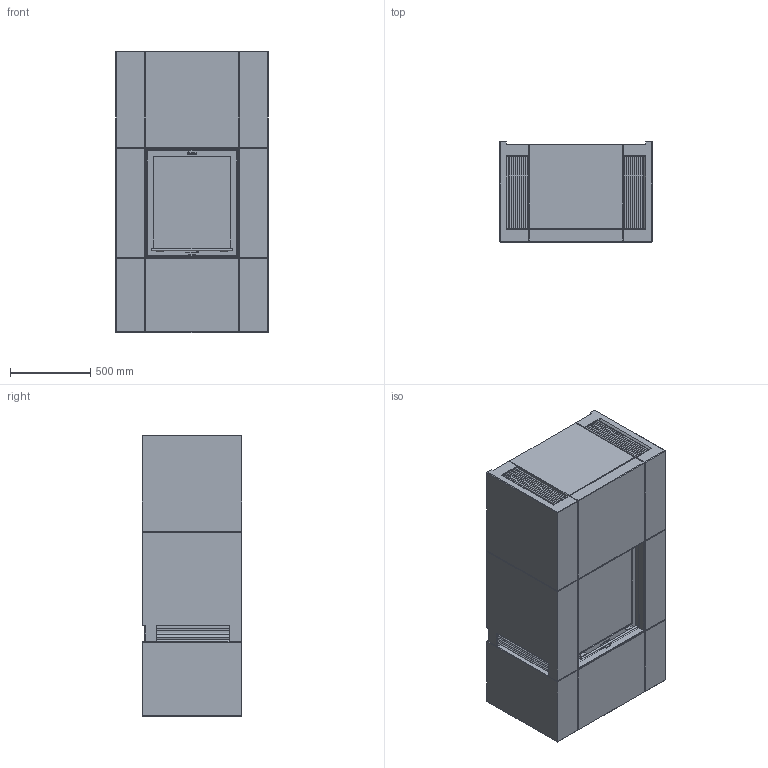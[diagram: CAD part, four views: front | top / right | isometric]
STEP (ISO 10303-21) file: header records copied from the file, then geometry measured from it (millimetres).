
FILE_DESCRIPTION( ( 'Unknown' ), '1' );
FILE_NAME( 'C:/Documents and Settings/hapierrea/Application Data/Unigraphics Solutions/Solid Edge/Insight/insight/Insight/interior models/C21C Assembly.stp', '2010', ( 'Unknown' ), ( 'NIBE AB' ), 'PSStep 11.0', 'Solid Edge', ' ' );
FILE_SCHEMA( ( 'AUTOMOTIVE_DESIGN { 1 0 10303 214 1 1 1 1 }' ) );
Length unit declared in the file: millimetre
Products named in the file (26): Assem1; Grills C21; Front set C21C; Insert i20; Firebox insulation i20; Door i20; Door frame i20; Glass i20; Concrete set C21-oa0; Fire i20
Bounding box: 950 x 620 x 1752 mm (x, y, z)
Surface area: 45562217.5 mm2
Topology: 50 solids, 50 shells, 3144 faces, 8180 edges, 5390 vertices
Faces by surface type: plane 2272, extrusion 584, cylinder 264, cone 20, sphere 4
Full cylindrical faces by diameter (mm): 10 x32, 12 x2, 100 x6, 200 x6
Entity records: 67835 total; most frequent: CARTESIAN_POINT 18179, ORIENTED_EDGE 8128, DIRECTION 6275, EDGE_CURVE 4064, VERTEX_POINT 2694, VECTOR 2637, LINE 2345, AXIS2_PLACEMENT_3D 1819
